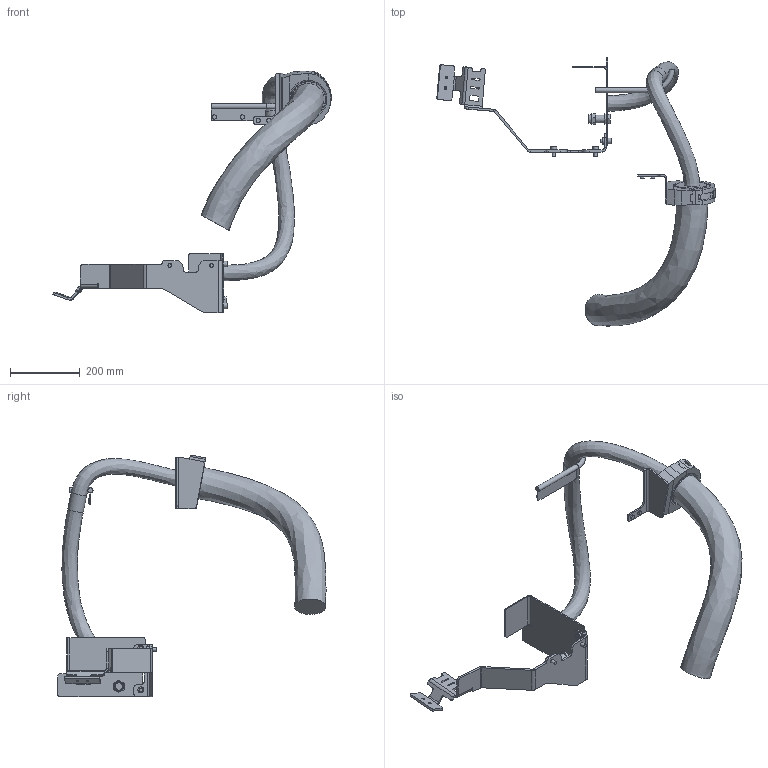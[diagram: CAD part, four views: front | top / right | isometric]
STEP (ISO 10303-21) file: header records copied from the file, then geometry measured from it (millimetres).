
FILE_DESCRIPTION (( 'STEP AP214' ), '1' );
FILE_NAME ('IRB6750S-MH_ALL-OC_00_LINK03a_CABLE.step', '2026-05-13T05:28:57', ( '' ), ( '' ), 'SwSTEP 2.0', 'SolidWorks 2024', '' );
FILE_SCHEMA (( 'AUTOMOTIVE_DESIGN' ));
Length unit declared in the file: millimetre
Products named in the file (1): IRB6750S-MH_ALL-OC_00_LINK03a_CABLE
Bounding box: 797.03 x 768.75 x 692.56 mm (x, y, z)
Volume: 6988527.7 mm3; surface area: 652703.6 mm2
Topology: 1 solids, 3 shells, 378 faces, 942 edges, 603 vertices
Faces by surface type: plane 238, cylinder 117, cone 8, bspline 8, sphere 5, torus 2
Full cylindrical faces by diameter (mm): 6 x2, 6.8 x2, 9.8 x1, 10 x4, 10.22 x2, 11 x2, 12 x4, 15 x1, 16.27 x4, 17.2 x1, 17.321 x2, 20 x1, 21 x1, 22 x1, 45 x1, 90 x1
Entity records: 18055 total; most frequent: CARTESIAN_POINT 5081, DIRECTION 1831, ORIENTED_EDGE 1762, EDGE_CURVE 881, AXIS2_PLACEMENT_3D 646, VERTEX_POINT 581, LINE 539, VECTOR 539
